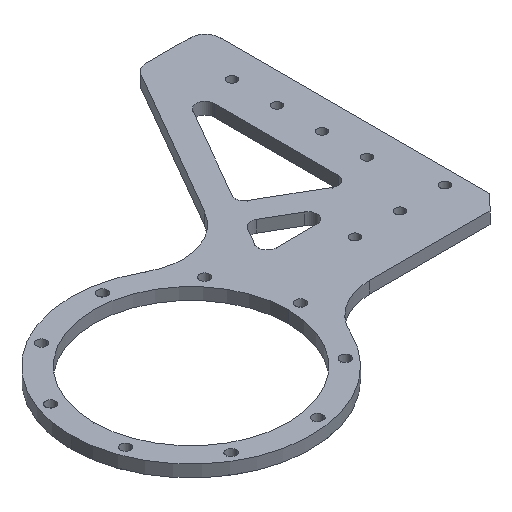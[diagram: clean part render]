
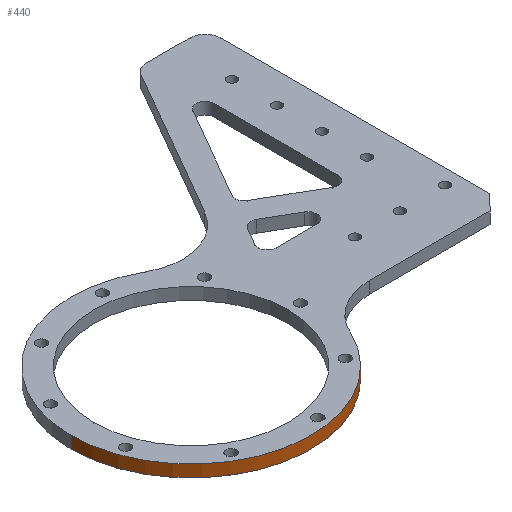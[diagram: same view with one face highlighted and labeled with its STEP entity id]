
A CAD part, isometric view. The second image highlights one B-rep face of the part: STEP entity #440.
In plain terms, the highlighted cylindrical face has radius 40 mm (diameter 80 mm), a partial arc.
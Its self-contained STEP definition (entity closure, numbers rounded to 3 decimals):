
#166 = CARTESIAN_POINT ( 'NONE',  ( 36.362, -16.667, 0. ) ) ;
#332 = DIRECTION ( 'NONE',  ( 1., 0., 0. ) ) ;
#344 = VERTEX_POINT ( 'NONE', #847 ) ;
#440 = ADVANCED_FACE ( 'NONE', ( #2181 ), #532, .T. ) ;
#445 = AXIS2_PLACEMENT_3D ( 'NONE', #743, #2166, #1511 ) ;
#465 = EDGE_CURVE ( 'NONE', #2803, #1881, #1444, .T. ) ;
#532 = CYLINDRICAL_SURFACE ( 'NONE', #445, 40. ) ;
#551 = CARTESIAN_POINT ( 'NONE',  ( 0., 0., -4. ) ) ;
#644 = CIRCLE ( 'NONE', #2412, 40. ) ;
#743 = CARTESIAN_POINT ( 'NONE',  ( 0., 0., -4. ) ) ;
#831 = CARTESIAN_POINT ( 'NONE',  ( -40., 0., 0. ) ) ;
#847 = CARTESIAN_POINT ( 'NONE',  ( 36.362, -16.667, -4. ) ) ;
#917 = CARTESIAN_POINT ( 'NONE',  ( -40., 0., -4. ) ) ;
#1134 = EDGE_LOOP ( 'NONE', ( #2952, #2988, #2786, #2397 ) ) ;
#1237 = EDGE_CURVE ( 'NONE', #1881, #1897, #644, .T. ) ;
#1320 = EDGE_CURVE ( 'NONE', #1897, #344, #1963, .T. ) ;
#1444 = LINE ( 'NONE', #2600, #2019 ) ;
#1490 = VECTOR ( 'NONE', #2924, 1000. ) ;
#1511 = DIRECTION ( 'NONE',  ( -1., 0., 0. ) ) ;
#1703 = DIRECTION ( 'NONE',  ( 1., 0., 0. ) ) ;
#1740 = CIRCLE ( 'NONE', #2905, 40. ) ;
#1756 = EDGE_CURVE ( 'NONE', #2803, #344, #1740, .T. ) ;
#1881 = VERTEX_POINT ( 'NONE', #831 ) ;
#1897 = VERTEX_POINT ( 'NONE', #166 ) ;
#1963 = LINE ( 'NONE', #2439, #1490 ) ;
#2019 = VECTOR ( 'NONE', #2627, 1000. ) ;
#2119 = CARTESIAN_POINT ( 'NONE',  ( 0., 0., 0. ) ) ;
#2134 = DIRECTION ( 'NONE',  ( 0., 0., 1. ) ) ;
#2166 = DIRECTION ( 'NONE',  ( 0., 0., 1. ) ) ;
#2181 = FACE_OUTER_BOUND ( 'NONE', #1134, .T. ) ;
#2397 = ORIENTED_EDGE ( 'NONE', *, *, #1237, .F. ) ;
#2412 = AXIS2_PLACEMENT_3D ( 'NONE', #2119, #2134, #1703 ) ;
#2432 = DIRECTION ( 'NONE',  ( 0., 0., 1. ) ) ;
#2439 = CARTESIAN_POINT ( 'NONE',  ( 36.362, -16.667, -4. ) ) ;
#2600 = CARTESIAN_POINT ( 'NONE',  ( -40., 0., -4. ) ) ;
#2627 = DIRECTION ( 'NONE',  ( 0., 0., 1. ) ) ;
#2786 = ORIENTED_EDGE ( 'NONE', *, *, #1320, .F. ) ;
#2803 = VERTEX_POINT ( 'NONE', #917 ) ;
#2905 = AXIS2_PLACEMENT_3D ( 'NONE', #551, #2432, #332 ) ;
#2924 = DIRECTION ( 'NONE',  ( 0., 0., -1. ) ) ;
#2952 = ORIENTED_EDGE ( 'NONE', *, *, #465, .F. ) ;
#2988 = ORIENTED_EDGE ( 'NONE', *, *, #1756, .T. ) ;
